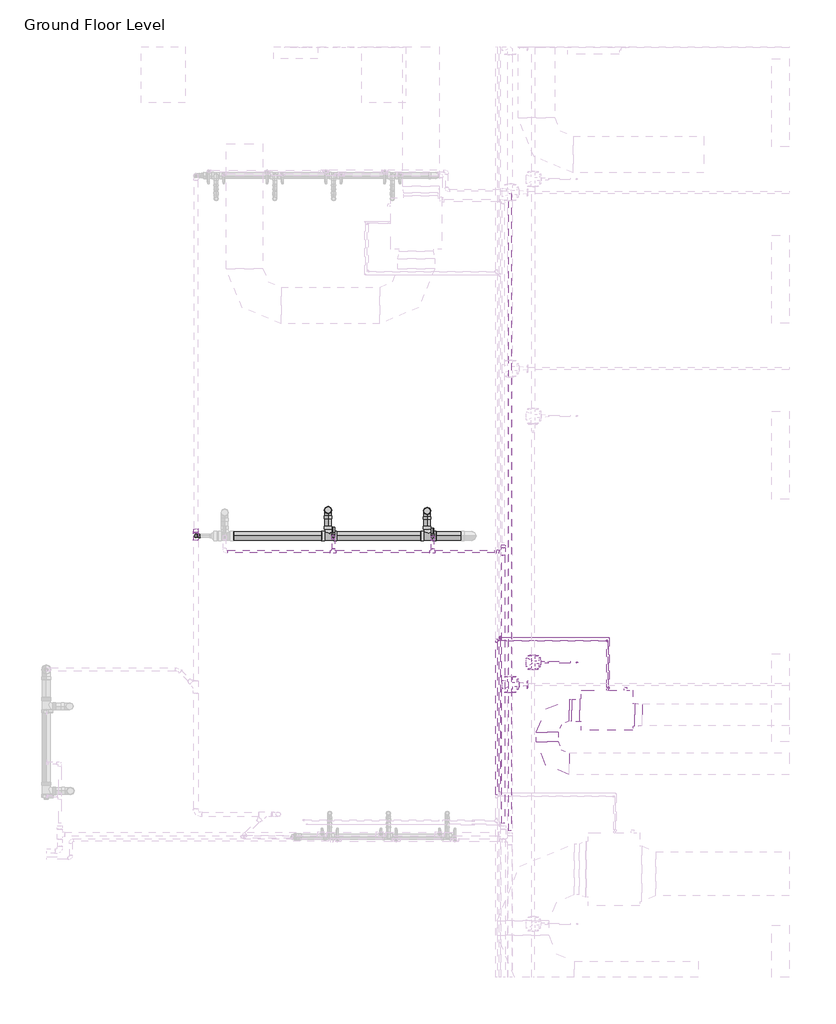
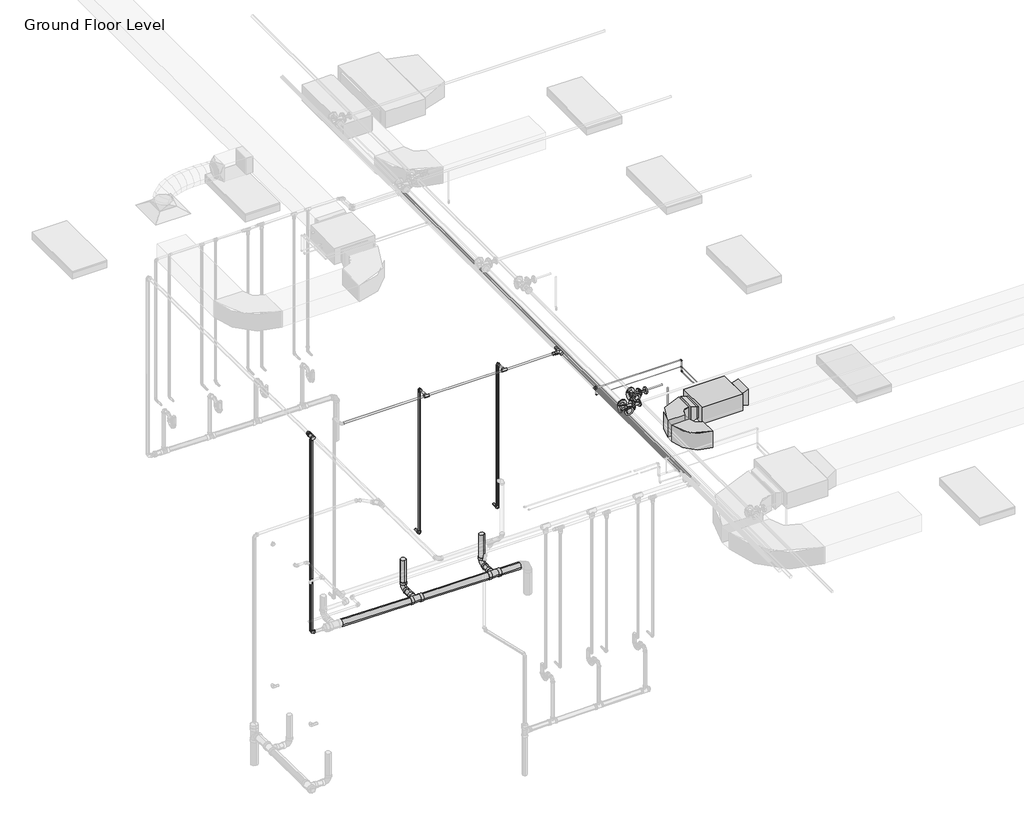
# One storey, part 20 of 74: 30 pipe segments, 28 pipe fittings, 4 duct fittings, 2 duct segments, 1 fire suppression terminal, 1 proxy.
"""IFC4 building model written with IfcOpenShell, lengths in millimetres."""

from ifc_helpers import new_model, si_unit, point, frame, frame_2d, origin, place, context, project, spatial, polyline, circle_curve, trimmed, segment, composite_curve, outline, extrude, transform, mapped, element, save
from components import fcu_daikin_iu_27d020f6, m_rectangular_elbow_radius_1_w_618da153, m_rectangular_transition_angle_45_degree_bfac0661, m_rectangular_transition_angle_45_degree_d4666cfa, m_sprinkler_pendent_15_mm_pendent_06fcbd8e, m_bend_pvc_sch_40_dwv_standard_a4b99d37, m_bend_pvc_sch_40_dwv_standard_877aed9a, m_elbow_generic_standard_a088f956, m_elbow_generic_standard_2a704253, m_reducer_flanged_cs_class_150_standard_d42b2106, m_reducer_flanged_cs_class_150_standard_a7631c35, m_reducer_pvc_sch_40_dwv_standard_230e9924, m_tee_generic_standard_5b2ed4d4, m_tee_generic_standard_5078887e, m_tee_reducing_sanitary_pvc_sch_40_dwv_standard_b49161a9, m_tee_reducing_sanitary_pvc_sch_40_dwv_standard_ca98856a, m_tee_round_base_flanged_cs_class_150_standard_dd767e04, m_tee_round_base_flanged_cs_class_150_standard_7e5987a1, m_transition_generic_standard_44e35838, m_transition_generic_standard_2d362458, standard_517a5a8d, standard_72b35c3b, standard_08ff6011, standard_d0d0b892

model = new_model("IFC4")

# Units and contexts
model_context = context("Model", 3, world=origin())
ifc_project = project(units=[si_unit("LENGTHUNIT", "METRE", prefix="MILLI")], contexts=[model_context])

# Site, building, storey
site = spatial("IfcSite", under=ifc_project)
building = spatial("IfcBuilding", under=site)
storey = spatial("IfcBuildingStorey", under=building, Name="Ground Floor Level", Elevation=900.0)

# Proxy
placement = place(None, origin())
fcu_daikin_iu_shape = fcu_daikin_iu_27d020f6(model_context)
element("IfcBuildingElementProxy", 1, Name="FCU-DAIKIN IU : 2.3kW, 230V/50Hz/1Ph", ObjectType="FCU-DAIKIN IU : 2.3kW, 230V/50Hz/1Ph", at=placement, inside=storey, context=model_context, shape_type="MappedRepresentation", body=[
    mapped(fcu_daikin_iu_shape, transform((7003.8644074, -31136.6877703, 4080.0), x_axis=(0.0, 1.0, 0.0), y_axis=(-1.0, 0.0, 0.0), z_axis=(0.0, 0.0, 1.0))),
])

# Duct fittings
m_rectangular_elbow_radius_1_w_shape = m_rectangular_elbow_radius_1_w_618da153(model_context)
element("IfcDuctFitting", 2, ObjectType="M_Rectangular Elbow - Radius : 1 W", at=placement, inside=storey, context=model_context, shape_type="MappedRepresentation", body=[
    mapped(m_rectangular_elbow_radius_1_w_shape, transform((6188.4644074, -31136.6877703, 4221.2), x_axis=(-1.0, 0.0, 0.0), y_axis=(0.0, -1.0, 0.0), z_axis=(0.0, 0.0, 1.0))),
])
element("IfcDuctFitting", 3, ObjectType="M_Rectangular Elbow - Radius : 1 W", at=placement, inside=storey, context=model_context, shape_type="MappedRepresentation", body=[
    mapped(m_rectangular_elbow_radius_1_w_shape, transform((6188.4644074, -31864.7846466, 4221.2), x_axis=(0.0, -1.0, 0.0), y_axis=(1.0, 0.0, 0.0), z_axis=(0.0, 0.0, 1.0))),
])
m_rectangular_transition_angle_45_degree_shape = m_rectangular_transition_angle_45_degree_bfac0661(model_context)
element("IfcDuctFitting", 4, ObjectType="M_Rectangular Transition - Angle : 45 Degree", at=placement, inside=storey, context=model_context, shape_type="MappedRepresentation", body=[
    mapped(m_rectangular_transition_angle_45_degree_shape, transform((6628.4644074, -31136.6877703, 4221.2), x_axis=(-1.0, 0.0, 0.0), y_axis=(0.0, -1.0, 0.0), z_axis=(0.0, 0.0, 1.0))),
])
m_rectangular_transition_angle_45_degree_2_shape = m_rectangular_transition_angle_45_degree_d4666cfa(model_context)
element("IfcDuctFitting", 5, ObjectType="M_Rectangular Transition - Angle : 45 Degree", at=placement, inside=storey, context=model_context, shape_type="MappedRepresentation", body=[
    mapped(m_rectangular_transition_angle_45_degree_2_shape, transform((7379.2644074, -31200.1877703, 4245.9125), x_axis=(1.0, 0.0, 0.0), y_axis=(0.0, 1.0, 0.0), z_axis=(0.0, 0.0, 1.0))),
])

# Duct segments
element("IfcDuctSegment", 6, ObjectType="Radius Elbows / Taps", at=placement, inside=storey, context=model_context, shape_type="SweptSolid", body=[
    extrude(outline(polyline([(6525.0153563, -30986.6877703), (6525.0153563, -31286.6877703), (6488.4644074, -31286.6877703), (6488.4644074, -30986.6877703), (6525.0153563, -30986.6877703)])), frame((0.0, 0.0, 4071.2), z_axis=(0.0, 0.0, 1.0), x_axis=(1.0, 0.0, 0.0)), (0.0, 0.0, 1.0), 300.0),
])
element("IfcDuctSegment", 7, ObjectType="Radius Elbows / Taps", at=placement, inside=storey, context=model_context, shape_type="SweptSolid", body=[
    extrude(outline(polyline([(6038.4644074, -31436.6877703), (6338.4644074, -31436.6877703), (6338.4644074, -31564.7846466), (6038.4644074, -31564.7846466), (6038.4644074, -31436.6877703)])), frame((0.0, 0.0, 4071.2), z_axis=(0.0, 0.0, 1.0), x_axis=(1.0, 0.0, 0.0)), (0.0, 0.0, 1.0), 300.0),
])

# Fire suppression terminal
m_sprinkler_pendent_15_mm_pendent_shape = m_sprinkler_pendent_15_mm_pendent_06fcbd8e(model_context)
element("IfcFireSuppressionTerminal", 8, ObjectType="M_Sprinkler - Pendent : 15 mm Pendent", at=placement, inside=storey, context=model_context, shape_type="MappedRepresentation", body=[
    mapped(m_sprinkler_pendent_15_mm_pendent_shape, transform((6592.5481019, -30483.0742399, 3650.0), x_axis=(1.0, 0.0, 0.0), y_axis=(0.0, 1.0, 0.0), z_axis=(0.0, 0.0, 1.0))),
])

# Pipe fittings
m_bend_pvc_sch_40_dwv_standard_shape = m_bend_pvc_sch_40_dwv_standard_a4b99d37(model_context)
element("IfcPipeFitting", 9, ObjectType="M_Bend - PVC - Sch 40 - DWV : Standard", at=placement, inside=storey, context=model_context, shape_type="MappedRepresentation", body=[
    mapped(m_bend_pvc_sch_40_dwv_standard_shape, transform((3203.6056556, -28411.2419494, 467.9903626), x_axis=(0.0, 0.0, -1.0), y_axis=(0.0, -1.0, 0.0), z_axis=(-1.0, 0.0, 0.0))),
])
element("IfcPipeFitting", 10, ObjectType="M_Bend - PVC - Sch 40 - DWV : Standard", at=placement, inside=storey, context=model_context, shape_type="MappedRepresentation", body=[
    mapped(m_bend_pvc_sch_40_dwv_standard_shape, transform((4553.7150181, -28421.2419494, 454.489269), x_axis=(0.0, 0.0, -1.0), y_axis=(0.0, -1.0, 0.0), z_axis=(-1.0, 0.0, 0.0))),
])
m_bend_pvc_sch_40_dwv_standard_2_shape = m_bend_pvc_sch_40_dwv_standard_877aed9a(model_context)
element("IfcPipeFitting", 11, ObjectType="M_Bend - PVC - Sch 40 - DWV : Standard", at=placement, inside=storey, context=model_context, shape_type="MappedRepresentation", body=[
    mapped(m_bend_pvc_sch_40_dwv_standard_2_shape, transform((1404.8669708, -28761.5689421, 485.9777495), x_axis=(-0.9999500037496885, 0.0, 0.009999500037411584), y_axis=(0.009999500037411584, 0.0, 0.9999500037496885), z_axis=(0.0, 1.0, 0.0))),
])
m_elbow_generic_standard_shape = m_elbow_generic_standard_a088f956(model_context)
element("IfcPipeFitting", 12, ObjectType="M_Elbow - Generic : Standard", at=placement, inside=storey, context=model_context, shape_type="MappedRepresentation", body=[
    mapped(m_elbow_generic_standard_shape, transform((7003.8644074, -30187.4513653, 4390.0), x_axis=(1.0, 0.0, 0.0), y_axis=(0.0, 0.0, -1.0), z_axis=(0.0, 1.0, 0.0))),
])
element("IfcPipeFitting", 13, ObjectType="M_Elbow - Generic : Standard", at=placement, inside=storey, context=model_context, shape_type="MappedRepresentation", body=[
    mapped(m_elbow_generic_standard_shape, transform((7003.8644074, -30187.4513653, 4180.0), x_axis=(0.0, 0.0, -1.0), y_axis=(0.0, -1.0, 0.0), z_axis=(-1.0, 0.0, 0.0))),
])
m_elbow_generic_standard_2_shape = m_elbow_generic_standard_2a704253(model_context)
element("IfcPipeFitting", 14, ObjectType="M_Elbow - Generic : Standard", at=placement, inside=storey, context=model_context, shape_type="MappedRepresentation", body=[
    mapped(m_elbow_generic_standard_2_shape, transform((7028.8644074, -30144.9316538, 4230.8), x_axis=(0.0, 1.0, 0.0), y_axis=(-1.0, 0.0, 0.0), z_axis=(0.0, 0.0, 1.0))),
])
element("IfcPipeFitting", 15, ObjectType="M_Elbow - Generic : Standard", at=placement, inside=storey, context=model_context, shape_type="MappedRepresentation", body=[
    mapped(m_elbow_generic_standard_2_shape, transform((5543.9904113, -30144.9316538, 4230.8), x_axis=(0.0, 0.0, -1.0), y_axis=(1.0, 0.0, 0.0), z_axis=(0.0, -1.0, 0.0))),
])
m_reducer_flanged_cs_class_150_standard_shape = m_reducer_flanged_cs_class_150_standard_d42b2106(model_context)
element("IfcPipeFitting", 16, ObjectType="M_Reducer - Flanged - CS - Class 150 : Standard", at=placement, inside=storey, context=model_context, shape_type="MappedRepresentation", body=[
    mapped(m_reducer_flanged_cs_class_150_standard_shape, transform((6097.7664057, -30483.0742399, 4290.0), x_axis=(1.0, 0.0, 0.0), y_axis=(0.0, 0.0, -1.0), z_axis=(0.0, 1.0, 0.0))),
])
m_reducer_flanged_cs_class_150_standard_2_shape = m_reducer_flanged_cs_class_150_standard_a7631c35(model_context)
element("IfcPipeFitting", 17, ObjectType="M_Reducer - Flanged - CS - Class 150 : Standard", at=placement, inside=storey, context=model_context, shape_type="MappedRepresentation", body=[
    mapped(m_reducer_flanged_cs_class_150_standard_2_shape, transform((5798.6174894, -30785.1783804, 4347.5), x_axis=(1.0, 0.0, 0.0), y_axis=(0.0, 0.0, 1.0), z_axis=(0.0, -1.0, 0.0))),
])
m_reducer_pvc_sch_40_dwv_standard_shape = m_reducer_pvc_sch_40_dwv_standard_230e9924(model_context)
element("IfcPipeFitting", 18, ObjectType="M_Reducer - PVC - Sch 40 - DWV : Standard", at=placement, inside=storey, context=model_context, shape_type="MappedRepresentation", body=[
    mapped(m_reducer_pvc_sch_40_dwv_standard_shape, transform((1404.8829692, -28664.0719039, 4086.0016836), x_axis=(0.0, -0.9999500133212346, 0.00999854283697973), y_axis=(1.0, 0.0, 0.0), z_axis=(0.0, 0.00999854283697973, 0.9999500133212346))),
])
m_tee_generic_standard_shape = m_tee_generic_standard_5b2ed4d4(model_context)
element("IfcPipeFitting", 19, ObjectType="M_Tee - Generic : Standard", at=placement, inside=storey, context=model_context, shape_type="MappedRepresentation", body=[
    mapped(m_tee_generic_standard_shape, transform((5543.9904113, -30144.9316538, 4377.5), x_axis=(0.0, -1.0, 0.0), y_axis=(0.0, 0.0, 1.0), z_axis=(-1.0, 0.0, 0.0))),
])
m_tee_generic_standard_2_shape = m_tee_generic_standard_5078887e(model_context)
element("IfcPipeFitting", 20, ObjectType="M_Tee - Generic : Standard", at=placement, inside=storey, context=model_context, shape_type="MappedRepresentation", body=[
    mapped(m_tee_generic_standard_2_shape, transform((5497.8951827, -30187.4513653, 4390.0), x_axis=(0.0, -1.0, 0.0), y_axis=(-1.0, 0.0, 0.0), z_axis=(0.0, 0.0, -1.0))),
])
m_tee_reducing_sanitary_pvc_sch_40_dwv_standard_shape = m_tee_reducing_sanitary_pvc_sch_40_dwv_standard_b49161a9(model_context)
element("IfcPipeFitting", 21, ObjectType="M_Tee Reducing Sanitary - PVC - Sch 40 - DWV : Standard", at=placement, inside=storey, context=model_context, shape_type="MappedRepresentation", body=[
    mapped(m_tee_reducing_sanitary_pvc_sch_40_dwv_standard_shape, transform((3203.6056556, -28761.5689421, 467.9903626), x_axis=(-0.9999500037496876, 0.0, 0.00999950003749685), y_axis=(0.0, -1.0, 0.0), z_axis=(0.00999950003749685, 0.0, 0.9999500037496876))),
])
element("IfcPipeFitting", 22, ObjectType="M_Tee Reducing Sanitary - PVC - Sch 40 - DWV : Standard", at=placement, inside=storey, context=model_context, shape_type="MappedRepresentation", body=[
    mapped(m_tee_reducing_sanitary_pvc_sch_40_dwv_standard_shape, transform((4553.7150181, -28761.5689421, 454.489269), x_axis=(-0.9999500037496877, 0.0, 0.009999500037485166), y_axis=(0.0, -1.0, 0.0), z_axis=(0.009999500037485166, 0.0, 0.9999500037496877))),
])
m_tee_reducing_sanitary_pvc_sch_40_dwv_standard_2_shape = m_tee_reducing_sanitary_pvc_sch_40_dwv_standard_ca98856a(model_context)
element("IfcPipeFitting", 23, ObjectType="M_Tee Reducing Sanitary - PVC - Sch 40 - DWV : Standard", at=placement, inside=storey, context=model_context, shape_type="MappedRepresentation", body=[
    mapped(m_tee_reducing_sanitary_pvc_sch_40_dwv_standard_2_shape, transform((1404.8829692, -28761.5849374, 4087.2766918), x_axis=(0.0, 0.9999500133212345, -0.009998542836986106), y_axis=(0.0, 0.009998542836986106, 0.9999500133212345), z_axis=(1.0, 0.0, 0.0))),
])
m_tee_round_base_flanged_cs_class_150_standard_shape = m_tee_round_base_flanged_cs_class_150_standard_dd767e04(model_context)
element("IfcPipeFitting", 24, ObjectType="M_Tee Round Base - Flanged - CS - Class 150 : Standard", at=placement, inside=storey, context=model_context, shape_type="MappedRepresentation", body=[
    mapped(m_tee_round_base_flanged_cs_class_150_standard_shape, transform((5684.6174894, -30785.1783804, 4347.5), x_axis=(0.0, -1.0, 0.0), y_axis=(-1.0, 0.0, 0.0), z_axis=(0.0, 0.0, -1.0))),
])
m_tee_round_base_flanged_cs_class_150_standard_2_shape = m_tee_round_base_flanged_cs_class_150_standard_7e5987a1(model_context)
element("IfcPipeFitting", 25, ObjectType="M_Tee Round Base - Flanged - CS - Class 150 : Standard", at=placement, inside=storey, context=model_context, shape_type="MappedRepresentation", body=[
    mapped(m_tee_round_base_flanged_cs_class_150_standard_2_shape, transform((5997.057812, -30483.0742399, 4290.0), x_axis=(0.0, 1.0, 0.0), y_axis=(-1.0, 0.0, 0.0), z_axis=(0.0, 0.0, 1.0))),
])
m_transition_generic_standard_shape = m_transition_generic_standard_44e35838(model_context)
element("IfcPipeFitting", 26, ObjectType="M_Transition - Generic : Standard", at=placement, inside=storey, context=model_context, shape_type="MappedRepresentation", body=[
    mapped(m_transition_generic_standard_shape, transform((5521.7076827, -30187.4513653, 4390.0), x_axis=(1.0, 0.0, 0.0), y_axis=(0.0, 1.0, 0.0), z_axis=(0.0, 0.0, 1.0))),
])
m_transition_generic_standard_2_shape = m_transition_generic_standard_2d362458(model_context)
element("IfcPipeFitting", 27, ObjectType="M_Transition - Generic : Standard", at=placement, inside=storey, context=model_context, shape_type="MappedRepresentation", body=[
    mapped(m_transition_generic_standard_2_shape, transform((5543.9904113, -30144.9316538, 4356.8625), x_axis=(0.0, 0.0, -1.0), y_axis=(1.0, 0.0, 0.0), z_axis=(0.0, -1.0, 0.0))),
])
standard_shape = standard_517a5a8d(model_context)
element("IfcPipeFitting", 28, ObjectType="M_Elbow - CPVC - Sch 40 : Standard", at=placement, inside=storey, context=model_context, shape_type="MappedRepresentation", body=[
    mapped(standard_shape, transform((4627.1152882, -28774.7846466, 1655.0), x_axis=(0.0, -1.0, 0.0), y_axis=(0.0, 0.0, 1.0), z_axis=(-1.0, 0.0, 0.0))),
])
element("IfcPipeFitting", 29, ObjectType="M_Elbow - CPVC - Sch 40 : Standard", at=placement, inside=storey, context=model_context, shape_type="MappedRepresentation", body=[
    mapped(standard_shape, transform((4627.1152882, -28774.7846466, 4300.0), x_axis=(0.0, 0.0, 1.0), y_axis=(0.0, -1.0, 0.0), z_axis=(1.0, 0.0, 0.0))),
])
element("IfcPipeFitting", 30, ObjectType="M_Elbow - CPVC - Sch 40 : Standard", at=placement, inside=storey, context=model_context, shape_type="MappedRepresentation", body=[
    mapped(standard_shape, transform((3277.0059257, -28764.7846466, 1655.0), x_axis=(0.0, -1.0, 0.0), y_axis=(0.0, 0.0, 1.0), z_axis=(-1.0, 0.0, 0.0))),
])
element("IfcPipeFitting", 31, ObjectType="M_Elbow - CPVC - Sch 40 : Standard", at=placement, inside=storey, context=model_context, shape_type="MappedRepresentation", body=[
    mapped(standard_shape, transform((3277.0059257, -28764.7846466, 4300.0), x_axis=(0.0, 0.0, 1.0), y_axis=(0.0, -1.0, 0.0), z_axis=(1.0, 0.0, 0.0))),
])
standard_2_shape = standard_72b35c3b(model_context)
element("IfcPipeFitting", 32, ObjectType="M_Tee - CPVC - Sch 40 : Standard", at=placement, inside=storey, context=model_context, shape_type="MappedRepresentation", body=[
    mapped(standard_2_shape, transform((4627.1152882, -28974.7846466, 4300.0), x_axis=(-1.0, 0.0, 0.0), y_axis=(0.0, -1.0, 0.0), z_axis=(0.0, 0.0, 1.0))),
])
element("IfcPipeFitting", 33, ObjectType="M_Tee - CPVC - Sch 40 : Standard", at=placement, inside=storey, context=model_context, shape_type="MappedRepresentation", body=[
    mapped(standard_2_shape, transform((3277.0059257, -28974.7846466, 4300.0), x_axis=(1.0, 0.0, 0.0), y_axis=(0.0, -1.0, 0.0), z_axis=(0.0, 0.0, -1.0))),
])
standard_3_shape = standard_08ff6011(model_context)
element("IfcPipeFitting", 34, ObjectType="M_Tee - CPVC - Sch 40 : Standard", at=placement, inside=storey, context=model_context, shape_type="MappedRepresentation", body=[
    mapped(standard_3_shape, transform((5589.646628, -28974.7846466, 4300.0), x_axis=(0.0, 1.0, 0.0), y_axis=(1.0, 0.0, 0.0), z_axis=(0.0, 0.0, -1.0))),
])
standard_4_shape = standard_d0d0b892(model_context)
element("IfcPipeFitting", 35, ObjectType="M_Coupling Reducing - CPVC - Sch 40 : Standard", at=placement, inside=storey, context=model_context, shape_type="MappedRepresentation", body=[
    mapped(standard_4_shape, transform((5589.646628, -28920.8096466, 4300.0), x_axis=(0.0, 1.0, 0.0), y_axis=(-1.0, 0.0, 0.0), z_axis=(0.0, 0.0, 1.0))),
])
element("IfcPipeFitting", 36, ObjectType="M_Coupling Reducing - CPVC - Sch 40 : Standard", at=placement, inside=storey, context=model_context, shape_type="MappedRepresentation", body=[
    mapped(standard_4_shape, transform((5535.671628, -28974.7846466, 4300.0), x_axis=(-1.0, 0.0, 0.0), y_axis=(0.0, -1.0, 0.0), z_axis=(0.0, 0.0, 1.0))),
])

# Pipe segments
element("IfcPipeSegment", 37, ObjectType="CPVC", at=placement, inside=storey, context=model_context, shape_type="SweptSolid", body=[
    extrude(outline(composite_curve([segment(trimmed(circle_curve(frame_2d((1655.0, 4627.1152882)), 16.7005), [point((1655.0, 4610.4147882))], [point((1638.2995, 4627.1152882))], False, "CARTESIAN"), True, "CONTINUOUS"), segment(trimmed(circle_curve(frame_2d((1655.0, 4627.1152882)), 16.7005), [point((1638.2995, 4627.1152882))], [point((1655.0, 4643.8157882))], False, "CARTESIAN"), True, "CONTINUOUS"), segment(trimmed(circle_curve(frame_2d((1655.0, 4627.1152882)), 16.7005), [point((1655.0, 4643.8157882))], [point((1671.7005, 4627.1152882))], False, "CARTESIAN"), True, "CONTINUOUS"), segment(trimmed(circle_curve(frame_2d((1655.0, 4627.1152882)), 16.7005), [point((1671.7005, 4627.1152882))], [point((1655.0, 4610.4147882))], False, "CARTESIAN"), True, "CONTINUOUS")], self_intersect=False)), frame((0.0, -28731.5220966, 0.0), z_axis=(0.0, 1.0, 0.0), x_axis=(0.0, 0.0, 1.0)), (0.0, 0.0, 1.0), 76.73745),
])
element("IfcPipeSegment", 38, ObjectType="CPVC", at=placement, inside=storey, context=model_context, shape_type="SweptSolid", body=[
    extrude(outline(composite_curve([segment(trimmed(circle_curve(frame_2d((4300.0, 4627.1152882)), 16.7005), [point((4300.0, 4610.4147882))], [point((4283.2995, 4627.1152882))], False, "CARTESIAN"), True, "CONTINUOUS"), segment(trimmed(circle_curve(frame_2d((4300.0, 4627.1152882)), 16.7005), [point((4283.2995, 4627.1152882))], [point((4300.0, 4643.8157882))], False, "CARTESIAN"), True, "CONTINUOUS"), segment(trimmed(circle_curve(frame_2d((4300.0, 4627.1152882)), 16.7005), [point((4300.0, 4643.8157882))], [point((4316.7005, 4627.1152882))], False, "CARTESIAN"), True, "CONTINUOUS"), segment(trimmed(circle_curve(frame_2d((4300.0, 4627.1152882)), 16.7005), [point((4316.7005, 4627.1152882))], [point((4300.0, 4610.4147882))], False, "CARTESIAN"), True, "CONTINUOUS")], self_intersect=False)), frame((0.0, -28935.0844466, 0.0), z_axis=(0.0, 1.0, 0.0), x_axis=(0.0, 0.0, 1.0)), (0.0, 0.0, 1.0), 117.03725),
])
element("IfcPipeSegment", 39, ObjectType="CPVC", at=placement, inside=storey, context=model_context, shape_type="SweptSolid", body=[
    extrude(outline(composite_curve([segment(trimmed(circle_curve(frame_2d((4627.1152882, -28774.7846466)), 16.7005), [point((4610.4147882, -28774.7846466))], [point((4627.1152882, -28758.0841466))], False, "CARTESIAN"), True, "CONTINUOUS"), segment(trimmed(circle_curve(frame_2d((4627.1152882, -28774.7846466)), 16.7005), [point((4627.1152882, -28758.0841466))], [point((4643.8157882, -28774.7846466))], False, "CARTESIAN"), True, "CONTINUOUS"), segment(trimmed(circle_curve(frame_2d((4627.1152882, -28774.7846466)), 16.7005), [point((4643.8157882, -28774.7846466))], [point((4627.1152882, -28791.4851466))], False, "CARTESIAN"), True, "CONTINUOUS"), segment(trimmed(circle_curve(frame_2d((4627.1152882, -28774.7846466)), 16.7005), [point((4627.1152882, -28791.4851466))], [point((4610.4147882, -28774.7846466))], False, "CARTESIAN"), True, "CONTINUOUS")], self_intersect=False)), frame((0.0, 0.0, 1698.26255), z_axis=(0.0, 0.0, 1.0), x_axis=(1.0, 0.0, 0.0)), (0.0, 0.0, 1.0), 2558.4749),
])
element("IfcPipeSegment", 40, ObjectType="CPVC", at=placement, inside=storey, context=model_context, shape_type="SweptSolid", body=[
    extrude(outline(composite_curve([segment(trimmed(circle_curve(frame_2d((-28974.7846466, 4300.0)), 16.7005), [point((-28958.0841466, 4300.0))], [point((-28974.7846466, 4283.2995))], False, "CARTESIAN"), True, "CONTINUOUS"), segment(trimmed(circle_curve(frame_2d((-28974.7846466, 4300.0)), 16.7005), [point((-28974.7846466, 4283.2995))], [point((-28991.4851466, 4300.0))], False, "CARTESIAN"), True, "CONTINUOUS"), segment(trimmed(circle_curve(frame_2d((-28974.7846466, 4300.0)), 16.7005), [point((-28991.4851466, 4300.0))], [point((-28974.7846466, 4316.7005))], False, "CARTESIAN"), True, "CONTINUOUS"), segment(trimmed(circle_curve(frame_2d((-28974.7846466, 4300.0)), 16.7005), [point((-28974.7846466, 4316.7005))], [point((-28958.0841466, 4300.0))], False, "CARTESIAN"), True, "CONTINUOUS")], self_intersect=False)), frame((4666.8154882, 0.0, 0.0), z_axis=(1.0, 0.0, 0.0), x_axis=(0.0, 1.0, 0.0)), (0.0, 0.0, 1.0), 802.7372648),
])
element("IfcPipeSegment", 41, ObjectType="CPVC", at=placement, inside=storey, context=model_context, shape_type="SweptSolid", body=[
    extrude(outline(composite_curve([segment(trimmed(circle_curve(frame_2d((-28974.7846466, 4300.0)), 16.7005), [point((-28958.0841466, 4300.0))], [point((-28974.7846466, 4283.2995))], False, "CARTESIAN"), True, "CONTINUOUS"), segment(trimmed(circle_curve(frame_2d((-28974.7846466, 4300.0)), 16.7005), [point((-28974.7846466, 4283.2995))], [point((-28991.4851466, 4300.0))], False, "CARTESIAN"), True, "CONTINUOUS"), segment(trimmed(circle_curve(frame_2d((-28974.7846466, 4300.0)), 16.7005), [point((-28991.4851466, 4300.0))], [point((-28974.7846466, 4316.7005))], False, "CARTESIAN"), True, "CONTINUOUS"), segment(trimmed(circle_curve(frame_2d((-28974.7846466, 4300.0)), 16.7005), [point((-28974.7846466, 4316.7005))], [point((-28958.0841466, 4300.0))], False, "CARTESIAN"), True, "CONTINUOUS")], self_intersect=False)), frame((1840.0213414, 0.0, 0.0), z_axis=(1.0, 0.0, 0.0), x_axis=(0.0, 1.0, 0.0)), (0.0, 0.0, 1.0), 1397.2843843),
])
element("IfcPipeSegment", 42, ObjectType="CPVC", at=placement, inside=storey, context=model_context, shape_type="SweptSolid", body=[
    extrude(outline(composite_curve([segment(trimmed(circle_curve(frame_2d((1655.0, 3277.0059257)), 16.7005), [point((1655.0, 3260.3054257))], [point((1638.2995, 3277.0059257))], False, "CARTESIAN"), True, "CONTINUOUS"), segment(trimmed(circle_curve(frame_2d((1655.0, 3277.0059257)), 16.7005), [point((1638.2995, 3277.0059257))], [point((1655.0, 3293.7064257))], False, "CARTESIAN"), True, "CONTINUOUS"), segment(trimmed(circle_curve(frame_2d((1655.0, 3277.0059257)), 16.7005), [point((1655.0, 3293.7064257))], [point((1671.7005, 3277.0059257))], False, "CARTESIAN"), True, "CONTINUOUS"), segment(trimmed(circle_curve(frame_2d((1655.0, 3277.0059257)), 16.7005), [point((1671.7005, 3277.0059257))], [point((1655.0, 3260.3054257))], False, "CARTESIAN"), True, "CONTINUOUS")], self_intersect=False)), frame((0.0, -28721.5220966, 0.0), z_axis=(0.0, 1.0, 0.0), x_axis=(0.0, 0.0, 1.0)), (0.0, 0.0, 1.0), 76.73745),
])
element("IfcPipeSegment", 43, ObjectType="CPVC", at=placement, inside=storey, context=model_context, shape_type="SweptSolid", body=[
    extrude(outline(composite_curve([segment(trimmed(circle_curve(frame_2d((4300.0, 3277.0059257)), 16.7005), [point((4300.0, 3293.7064257))], [point((4316.7005, 3277.0059257))], False, "CARTESIAN"), True, "CONTINUOUS"), segment(trimmed(circle_curve(frame_2d((4300.0, 3277.0059257)), 16.7005), [point((4316.7005, 3277.0059257))], [point((4300.0, 3260.3054257))], False, "CARTESIAN"), True, "CONTINUOUS"), segment(trimmed(circle_curve(frame_2d((4300.0, 3277.0059257)), 16.7005), [point((4300.0, 3260.3054257))], [point((4283.2995, 3277.0059257))], False, "CARTESIAN"), True, "CONTINUOUS"), segment(trimmed(circle_curve(frame_2d((4300.0, 3277.0059257)), 16.7005), [point((4283.2995, 3277.0059257))], [point((4300.0, 3293.7064257))], False, "CARTESIAN"), True, "CONTINUOUS")], self_intersect=False)), frame((0.0, -28935.0844466, 0.0), z_axis=(0.0, 1.0, 0.0), x_axis=(0.0, 0.0, 1.0)), (0.0, 0.0, 1.0), 127.03725),
])
element("IfcPipeSegment", 44, ObjectType="CPVC", at=placement, inside=storey, context=model_context, shape_type="SweptSolid", body=[
    extrude(outline(composite_curve([segment(trimmed(circle_curve(frame_2d((3277.0059257, -28764.7846466)), 16.7005), [point((3260.3054257, -28764.7846466))], [point((3277.0059257, -28748.0841466))], False, "CARTESIAN"), True, "CONTINUOUS"), segment(trimmed(circle_curve(frame_2d((3277.0059257, -28764.7846466)), 16.7005), [point((3277.0059257, -28748.0841466))], [point((3293.7064257, -28764.7846466))], False, "CARTESIAN"), True, "CONTINUOUS"), segment(trimmed(circle_curve(frame_2d((3277.0059257, -28764.7846466)), 16.7005), [point((3293.7064257, -28764.7846466))], [point((3277.0059257, -28781.4851466))], False, "CARTESIAN"), True, "CONTINUOUS"), segment(trimmed(circle_curve(frame_2d((3277.0059257, -28764.7846466)), 16.7005), [point((3277.0059257, -28781.4851466))], [point((3260.3054257, -28764.7846466))], False, "CARTESIAN"), True, "CONTINUOUS")], self_intersect=False)), frame((0.0, 0.0, 1698.26255), z_axis=(0.0, 0.0, 1.0), x_axis=(1.0, 0.0, 0.0)), (0.0, 0.0, 1.0), 2558.4749),
])
element("IfcPipeSegment", 45, ObjectType="CPVC", at=placement, inside=storey, context=model_context, shape_type="SweptSolid", body=[
    extrude(outline(composite_curve([segment(trimmed(circle_curve(frame_2d((-28974.7846466, 4300.0)), 16.7005), [point((-28958.0841466, 4300.0))], [point((-28974.7846466, 4283.2995))], False, "CARTESIAN"), True, "CONTINUOUS"), segment(trimmed(circle_curve(frame_2d((-28974.7846466, 4300.0)), 16.7005), [point((-28974.7846466, 4283.2995))], [point((-28991.4851466, 4300.0))], False, "CARTESIAN"), True, "CONTINUOUS"), segment(trimmed(circle_curve(frame_2d((-28974.7846466, 4300.0)), 16.7005), [point((-28991.4851466, 4300.0))], [point((-28974.7846466, 4316.7005))], False, "CARTESIAN"), True, "CONTINUOUS"), segment(trimmed(circle_curve(frame_2d((-28974.7846466, 4300.0)), 16.7005), [point((-28974.7846466, 4316.7005))], [point((-28958.0841466, 4300.0))], False, "CARTESIAN"), True, "CONTINUOUS")], self_intersect=False)), frame((3316.7061257, 0.0, 0.0), z_axis=(1.0, 0.0, 0.0), x_axis=(0.0, 1.0, 0.0)), (0.0, 0.0, 1.0), 1270.7089625),
])
element("IfcPipeSegment", 46, ObjectType="CPVC", at=placement, inside=storey, context=model_context, shape_type="SweptSolid", body=[
    extrude(outline(composite_curve([segment(trimmed(circle_curve(frame_2d((4300.0, 5589.646628)), 21.082), [point((4300.0, 5568.564628))], [point((4278.918, 5589.646628))], False, "CARTESIAN"), True, "CONTINUOUS"), segment(trimmed(circle_curve(frame_2d((4300.0, 5589.646628)), 21.082), [point((4278.918, 5589.646628))], [point((4300.0, 5610.728628))], False, "CARTESIAN"), True, "CONTINUOUS"), segment(trimmed(circle_curve(frame_2d((4300.0, 5589.646628)), 21.082), [point((4300.0, 5610.728628))], [point((4321.082, 5589.646628))], False, "CARTESIAN"), True, "CONTINUOUS"), segment(trimmed(circle_curve(frame_2d((4300.0, 5589.646628)), 21.082), [point((4321.082, 5589.646628))], [point((4300.0, 5568.564628))], False, "CARTESIAN"), True, "CONTINUOUS")], self_intersect=False)), frame((0.0, -32672.9715951, 0.0), z_axis=(0.0, 1.0, 0.0), x_axis=(0.0, 0.0, 1.0)), (0.0, 0.0, 1.0), 3644.2119485),
])
element("IfcPipeSegment", 47, ObjectType="CPVC", at=placement, inside=storey, context=model_context, shape_type="SweptSolid", body=[
    extrude(outline(composite_curve([segment(trimmed(circle_curve(frame_2d((4250.0, 5680.5575802)), 16.7005), [point((4250.0, 5697.2580802))], [point((4266.7005, 5680.5575802))], False, "CARTESIAN"), True, "CONTINUOUS"), segment(trimmed(circle_curve(frame_2d((4250.0, 5680.5575802)), 16.7005), [point((4266.7005, 5680.5575802))], [point((4250.0, 5663.8570802))], False, "CARTESIAN"), True, "CONTINUOUS"), segment(trimmed(circle_curve(frame_2d((4250.0, 5680.5575802)), 16.7005), [point((4250.0, 5663.8570802))], [point((4233.2995, 5680.5575802))], False, "CARTESIAN"), True, "CONTINUOUS"), segment(trimmed(circle_curve(frame_2d((4250.0, 5680.5575802)), 16.7005), [point((4233.2995, 5680.5575802))], [point((4250.0, 5697.2580802))], False, "CARTESIAN"), True, "CONTINUOUS")], self_intersect=False)), frame((0.0, -32774.921633, 0.0), z_axis=(0.0, 1.0, 0.0), x_axis=(0.0, 0.0, 1.0)), (0.0, 0.0, 1.0), 8676.73745),
])
element("IfcPipeSegment", 48, ObjectType="Copper", at=placement, inside=storey, context=model_context, shape_type="SweptSolid", body=[
    extrude(outline(composite_curve([segment(trimmed(circle_curve(frame_2d((-30187.4513653, 4390.0)), 6.5), [point((-30193.9513653, 4390.0))], [point((-30187.4513653, 4396.5))], False, "CARTESIAN"), True, "CONTINUOUS"), segment(trimmed(circle_curve(frame_2d((-30187.4513653, 4390.0)), 6.5), [point((-30187.4513653, 4396.5))], [point((-30180.9513653, 4390.0))], False, "CARTESIAN"), True, "CONTINUOUS"), segment(trimmed(circle_curve(frame_2d((-30187.4513653, 4390.0)), 6.5), [point((-30180.9513653, 4390.0))], [point((-30187.4513653, 4383.5))], False, "CARTESIAN"), True, "CONTINUOUS"), segment(trimmed(circle_curve(frame_2d((-30187.4513653, 4390.0)), 6.5), [point((-30187.4513653, 4383.5))], [point((-30193.9513653, 4390.0))], False, "CARTESIAN"), True, "CONTINUOUS")], self_intersect=False)), frame((5527.2639327, 0.0, 0.0), z_axis=(1.0, 0.0, 0.0), x_axis=(0.0, 1.0, 0.0)), (0.0, 0.0, 1.0), 1462.3129748),
])
element("IfcPipeSegment", 49, ObjectType="Copper", at=placement, inside=storey, context=model_context, shape_type="SweptSolid", body=[
    extrude(outline(composite_curve([segment(trimmed(circle_curve(frame_2d((4390.0, 5497.8951827)), 9.75), [point((4390.0, 5507.6451827))], [point((4399.75, 5497.8951827))], False, "CARTESIAN"), True, "CONTINUOUS"), segment(trimmed(circle_curve(frame_2d((4390.0, 5497.8951827)), 9.75), [point((4399.75, 5497.8951827))], [point((4390.0, 5488.1451827))], False, "CARTESIAN"), True, "CONTINUOUS"), segment(trimmed(circle_curve(frame_2d((4390.0, 5497.8951827)), 9.75), [point((4390.0, 5488.1451827))], [point((4380.25, 5497.8951827))], False, "CARTESIAN"), True, "CONTINUOUS"), segment(trimmed(circle_curve(frame_2d((4390.0, 5497.8951827)), 9.75), [point((4380.25, 5497.8951827))], [point((4390.0, 5507.6451827))], False, "CARTESIAN"), True, "CONTINUOUS")], self_intersect=False)), frame((0.0, -32283.6388653, 0.0), z_axis=(0.0, 1.0, 0.0), x_axis=(0.0, 0.0, 1.0)), (0.0, 0.0, 1.0), 2072.375),
])
element("IfcPipeSegment", 50, ObjectType="Copper", at=placement, inside=storey, context=model_context, shape_type="SweptSolid", body=[
    extrude(outline(composite_curve([segment(trimmed(circle_curve(frame_2d((4180.0, 7003.8644074)), 6.5), [point((4180.0, 6997.3644074))], [point((4173.5, 7003.8644074))], False, "CARTESIAN"), True, "CONTINUOUS"), segment(trimmed(circle_curve(frame_2d((4180.0, 7003.8644074)), 6.5), [point((4173.5, 7003.8644074))], [point((4180.0, 7010.3644074))], False, "CARTESIAN"), True, "CONTINUOUS"), segment(trimmed(circle_curve(frame_2d((4180.0, 7003.8644074)), 6.5), [point((4180.0, 7010.3644074))], [point((4186.5, 7003.8644074))], False, "CARTESIAN"), True, "CONTINUOUS"), segment(trimmed(circle_curve(frame_2d((4180.0, 7003.8644074)), 6.5), [point((4186.5, 7003.8644074))], [point((4180.0, 6997.3644074))], False, "CARTESIAN"), True, "CONTINUOUS")], self_intersect=False)), frame((0.0, -30823.5877703, 0.0), z_axis=(0.0, 1.0, 0.0), x_axis=(0.0, 0.0, 1.0)), (0.0, 0.0, 1.0), 621.8489049),
])
element("IfcPipeSegment", 51, ObjectType="Copper", at=placement, inside=storey, context=model_context, shape_type="SweptSolid", body=[
    extrude(outline(composite_curve([segment(trimmed(circle_curve(frame_2d((4230.8, 7028.8644074)), 3.35), [point((4230.8, 7025.5144074))], [point((4227.45, 7028.8644074))], False, "CARTESIAN"), True, "CONTINUOUS"), segment(trimmed(circle_curve(frame_2d((4230.8, 7028.8644074)), 3.35), [point((4227.45, 7028.8644074))], [point((4230.8, 7032.2144074))], False, "CARTESIAN"), True, "CONTINUOUS"), segment(trimmed(circle_curve(frame_2d((4230.8, 7028.8644074)), 3.35), [point((4230.8, 7032.2144074))], [point((4234.15, 7028.8644074))], False, "CARTESIAN"), True, "CONTINUOUS"), segment(trimmed(circle_curve(frame_2d((4230.8, 7028.8644074)), 3.35), [point((4234.15, 7028.8644074))], [point((4230.8, 7025.5144074))], False, "CARTESIAN"), True, "CONTINUOUS")], self_intersect=False)), frame((0.0, -30823.5877703, 0.0), z_axis=(0.0, 1.0, 0.0), x_axis=(0.0, 0.0, 1.0)), (0.0, 0.0, 1.0), 667.5186165),
])
element("IfcPipeSegment", 52, ObjectType="Copper", at=placement, inside=storey, context=model_context, shape_type="SweptSolid", body=[
    extrude(outline(composite_curve([segment(trimmed(circle_curve(frame_2d((7003.8644074, -30187.4513653)), 6.5), [point((7010.3644074, -30187.4513653))], [point((7003.8644074, -30193.9513653))], False, "CARTESIAN"), True, "CONTINUOUS"), segment(trimmed(circle_curve(frame_2d((7003.8644074, -30187.4513653)), 6.5), [point((7003.8644074, -30193.9513653))], [point((6997.3644074, -30187.4513653))], False, "CARTESIAN"), True, "CONTINUOUS"), segment(trimmed(circle_curve(frame_2d((7003.8644074, -30187.4513653)), 6.5), [point((6997.3644074, -30187.4513653))], [point((7003.8644074, -30180.9513653))], False, "CARTESIAN"), True, "CONTINUOUS"), segment(trimmed(circle_curve(frame_2d((7003.8644074, -30187.4513653)), 6.5), [point((7003.8644074, -30180.9513653))], [point((7010.3644074, -30187.4513653))], False, "CARTESIAN"), True, "CONTINUOUS")], self_intersect=False)), frame((0.0, 0.0, 4194.2875), z_axis=(0.0, 0.0, 1.0), x_axis=(1.0, 0.0, 0.0)), (0.0, 0.0, 1.0), 181.425),
])
element("IfcPipeSegment", 53, ObjectType="Copper", at=placement, inside=storey, context=model_context, shape_type="SweptSolid", body=[
    extrude(outline(composite_curve([segment(trimmed(circle_curve(frame_2d((4377.5, 5543.9904113)), 6.5), [point((4377.5, 5550.4904113))], [point((4384.0, 5543.9904113))], False, "CARTESIAN"), True, "CONTINUOUS"), segment(trimmed(circle_curve(frame_2d((4377.5, 5543.9904113)), 6.5), [point((4384.0, 5543.9904113))], [point((4377.5, 5537.4904113))], False, "CARTESIAN"), True, "CONTINUOUS"), segment(trimmed(circle_curve(frame_2d((4377.5, 5543.9904113)), 6.5), [point((4377.5, 5537.4904113))], [point((4371.0, 5543.9904113))], False, "CARTESIAN"), True, "CONTINUOUS"), segment(trimmed(circle_curve(frame_2d((4377.5, 5543.9904113)), 6.5), [point((4371.0, 5543.9904113))], [point((4377.5, 5550.4904113))], False, "CARTESIAN"), True, "CONTINUOUS")], self_intersect=False)), frame((0.0, -32244.2941538, 0.0), z_axis=(0.0, 1.0, 0.0), x_axis=(0.0, 0.0, 1.0)), (0.0, 0.0, 1.0), 2078.725),
])
element("IfcPipeSegment", 54, ObjectType="Copper", at=placement, inside=storey, context=model_context, shape_type="SweptSolid", body=[
    extrude(outline(composite_curve([segment(trimmed(circle_curve(frame_2d((5543.9904113, -30144.9316538)), 3.35), [point((5547.3404113, -30144.9316538))], [point((5543.9904113, -30148.2816538))], False, "CARTESIAN"), True, "CONTINUOUS"), segment(trimmed(circle_curve(frame_2d((5543.9904113, -30144.9316538)), 3.35), [point((5543.9904113, -30148.2816538))], [point((5540.6404113, -30144.9316538))], False, "CARTESIAN"), True, "CONTINUOUS"), segment(trimmed(circle_curve(frame_2d((5543.9904113, -30144.9316538)), 3.35), [point((5540.6404113, -30144.9316538))], [point((5543.9904113, -30141.5816538))], False, "CARTESIAN"), True, "CONTINUOUS"), segment(trimmed(circle_curve(frame_2d((5543.9904113, -30144.9316538)), 3.35), [point((5543.9904113, -30141.5816538))], [point((5547.3404113, -30144.9316538))], False, "CARTESIAN"), True, "CONTINUOUS")], self_intersect=False)), frame((0.0, 0.0, 4241.9375), z_axis=(0.0, 0.0, 1.0), x_axis=(1.0, 0.0, 0.0)), (0.0, 0.0, 1.0), 110.95625),
])
element("IfcPipeSegment", 55, ObjectType="Copper", at=placement, inside=storey, context=model_context, shape_type="SweptSolid", body=[
    extrude(outline(composite_curve([segment(trimmed(circle_curve(frame_2d((-30144.9316538, 4230.8)), 3.35), [point((-30148.2816538, 4230.8))], [point((-30144.9316538, 4234.15))], False, "CARTESIAN"), True, "CONTINUOUS"), segment(trimmed(circle_curve(frame_2d((-30144.9316538, 4230.8)), 3.35), [point((-30144.9316538, 4234.15))], [point((-30141.5816538, 4230.8))], False, "CARTESIAN"), True, "CONTINUOUS"), segment(trimmed(circle_curve(frame_2d((-30144.9316538, 4230.8)), 3.35), [point((-30141.5816538, 4230.8))], [point((-30144.9316538, 4227.45))], False, "CARTESIAN"), True, "CONTINUOUS"), segment(trimmed(circle_curve(frame_2d((-30144.9316538, 4230.8)), 3.35), [point((-30144.9316538, 4227.45))], [point((-30148.2816538, 4230.8))], False, "CARTESIAN"), True, "CONTINUOUS")], self_intersect=False)), frame((5555.1279113, 0.0, 0.0), z_axis=(1.0, 0.0, 0.0), x_axis=(0.0, 1.0, 0.0)), (0.0, 0.0, 1.0), 1462.5989961),
])
element("IfcPipeSegment", 56, ObjectType="PVC - DWV", at=placement, inside=storey, context=model_context, shape_type="SweptSolid", body=[
    extrude(outline(composite_curve([segment(trimmed(circle_curve(frame_2d((0.0, -44.45)), 44.45), [point((-44.45, -44.45))], [point((0.0, 0.0))], False, "CARTESIAN"), True, "CONTINUOUS"), segment(trimmed(circle_curve(frame_2d((0.0, -44.45)), 44.45), [point((0.0, 0.0))], [point((44.45, -44.45))], False, "CARTESIAN"), True, "CONTINUOUS"), segment(trimmed(circle_curve(frame_2d((0.0, -44.45)), 44.45), [point((44.45, -44.45))], [point((0.0, -88.9))], False, "CARTESIAN"), True, "CONTINUOUS"), segment(trimmed(circle_curve(frame_2d((0.0, -44.45)), 44.45), [point((0.0, -88.9))], [point((-44.45, -44.45))], False, "CARTESIAN"), True, "CONTINUOUS")], self_intersect=False)), frame((3203.6056556, -28455.6919494, 583.8905626), z_axis=(-1.1079649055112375e-05, 0.0, 0.9999999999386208), x_axis=(-0.9999999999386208, 0.0, -1.1079649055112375e-05)), (0.0, 0.0, 1.0), 406.1094374),
])
element("IfcPipeSegment", 57, ObjectType="PVC - DWV", at=placement, inside=storey, context=model_context, shape_type="SweptSolid", body=[
    extrude(outline(composite_curve([segment(trimmed(circle_curve(frame_2d((467.9903626, 3203.6056556)), 44.45), [point((467.9903626, 3159.1556556))], [point((423.5403626, 3203.6056556))], False, "CARTESIAN"), True, "CONTINUOUS"), segment(trimmed(circle_curve(frame_2d((467.9903626, 3203.6056556)), 44.45), [point((423.5403626, 3203.6056556))], [point((467.9903626, 3248.0556556))], False, "CARTESIAN"), True, "CONTINUOUS"), segment(trimmed(circle_curve(frame_2d((467.9903626, 3203.6056556)), 44.45), [point((467.9903626, 3248.0556556))], [point((512.4403626, 3203.6056556))], False, "CARTESIAN"), True, "CONTINUOUS"), segment(trimmed(circle_curve(frame_2d((467.9903626, 3203.6056556)), 44.45), [point((512.4403626, 3203.6056556))], [point((467.9903626, 3159.1556556))], False, "CARTESIAN"), True, "CONTINUOUS")], self_intersect=False)), frame((0.0, -28632.9687421, 0.0), z_axis=(0.0, 1.0, 0.0), x_axis=(0.0, 0.0, 1.0)), (0.0, 0.0, 1.0), 105.8265928),
])
element("IfcPipeSegment", 58, ObjectType="PVC - DWV", at=placement, inside=storey, context=model_context, shape_type="SweptSolid", body=[
    extrude(outline(composite_curve([segment(trimmed(circle_curve(frame_2d((0.0, -57.15)), 57.15), [point((0.0, -114.3))], [point((-57.15, -57.15))], False, "CARTESIAN"), True, "CONTINUOUS"), segment(trimmed(circle_curve(frame_2d((0.0, -57.15)), 57.15), [point((-57.15, -57.15))], [point((0.0, 0.0))], False, "CARTESIAN"), True, "CONTINUOUS"), segment(trimmed(circle_curve(frame_2d((0.0, -57.15)), 57.15), [point((0.0, 0.0))], [point((57.15, -57.15))], False, "CARTESIAN"), True, "CONTINUOUS"), segment(trimmed(circle_curve(frame_2d((0.0, -57.15)), 57.15), [point((57.15, -57.15))], [point((0.0, -114.3))], False, "CARTESIAN"), True, "CONTINUOUS")], self_intersect=False)), frame((3114.7101003, -28704.4189421, 468.8793182), z_axis=(-0.9999500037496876, 0.0, 0.00999950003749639), x_axis=(0.00999950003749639, 0.0, 0.9999500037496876)), (0.0, 0.0, 1.0), 1197.3287067),
])
element("IfcPipeSegment", 59, ObjectType="PVC - DWV", at=placement, inside=storey, context=model_context, shape_type="SweptSolid", body=[
    extrude(outline(composite_curve([segment(trimmed(circle_curve(frame_2d((0.0, -44.45)), 44.45), [point((-44.45, -44.45))], [point((0.0, 0.0))], False, "CARTESIAN"), True, "CONTINUOUS"), segment(trimmed(circle_curve(frame_2d((0.0, -44.45)), 44.45), [point((0.0, 0.0))], [point((44.45, -44.45))], False, "CARTESIAN"), True, "CONTINUOUS"), segment(trimmed(circle_curve(frame_2d((0.0, -44.45)), 44.45), [point((44.45, -44.45))], [point((0.0, -88.9))], False, "CARTESIAN"), True, "CONTINUOUS"), segment(trimmed(circle_curve(frame_2d((0.0, -44.45)), 44.45), [point((0.0, -88.9))], [point((-44.45, -44.45))], False, "CARTESIAN"), True, "CONTINUOUS")], self_intersect=False)), frame((4553.7150181, -28465.6919494, 570.389469), z_axis=(-1.0723158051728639e-05, 0.0, 0.999999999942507), x_axis=(-0.999999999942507, 0.0, -1.0723158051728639e-05)), (0.0, 0.0, 1.0), 419.610531),
])
element("IfcPipeSegment", 60, ObjectType="PVC - DWV", at=placement, inside=storey, context=model_context, shape_type="SweptSolid", body=[
    extrude(outline(composite_curve([segment(trimmed(circle_curve(frame_2d((454.489269, 4553.7150181)), 44.45), [point((454.489269, 4509.2650181))], [point((410.039269, 4553.7150181))], False, "CARTESIAN"), True, "CONTINUOUS"), segment(trimmed(circle_curve(frame_2d((454.489269, 4553.7150181)), 44.45), [point((410.039269, 4553.7150181))], [point((454.489269, 4598.1650181))], False, "CARTESIAN"), True, "CONTINUOUS"), segment(trimmed(circle_curve(frame_2d((454.489269, 4553.7150181)), 44.45), [point((454.489269, 4598.1650181))], [point((498.939269, 4553.7150181))], False, "CARTESIAN"), True, "CONTINUOUS"), segment(trimmed(circle_curve(frame_2d((454.489269, 4553.7150181)), 44.45), [point((498.939269, 4553.7150181))], [point((454.489269, 4509.2650181))], False, "CARTESIAN"), True, "CONTINUOUS")], self_intersect=False)), frame((0.0, -28632.9687421, 0.0), z_axis=(0.0, 1.0, 0.0), x_axis=(0.0, 0.0, 1.0)), (0.0, 0.0, 1.0), 95.8265928),
])
element("IfcPipeSegment", 61, ObjectType="PVC - DWV", at=placement, inside=storey, context=model_context, shape_type="SweptSolid", body=[
    extrude(outline(composite_curve([segment(trimmed(circle_curve(frame_2d((0.0, -57.15)), 57.15), [point((0.0, -114.3))], [point((-57.15, -57.15))], False, "CARTESIAN"), True, "CONTINUOUS"), segment(trimmed(circle_curve(frame_2d((0.0, -57.15)), 57.15), [point((-57.15, -57.15))], [point((0.0, 0.0))], False, "CARTESIAN"), True, "CONTINUOUS"), segment(trimmed(circle_curve(frame_2d((0.0, -57.15)), 57.15), [point((0.0, 0.0))], [point((57.15, -57.15))], False, "CARTESIAN"), True, "CONTINUOUS"), segment(trimmed(circle_curve(frame_2d((0.0, -57.15)), 57.15), [point((57.15, -57.15))], [point((0.0, -114.3))], False, "CARTESIAN"), True, "CONTINUOUS")], self_intersect=False)), frame((5015.6124792, -28704.4189421, 449.8702944), z_axis=(-0.9999500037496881, 0.0, 0.009999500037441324), x_axis=(0.009999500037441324, 0.0, 0.9999500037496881)), (0.0, 0.0, 1.0), 341.2705553),
])
element("IfcPipeSegment", 62, ObjectType="PVC - DWV", at=placement, inside=storey, context=model_context, shape_type="SweptSolid", body=[
    extrude(outline(composite_curve([segment(trimmed(circle_curve(frame_2d((0.0, -57.15)), 57.15), [point((0.0, -114.3))], [point((-57.15, -57.15))], False, "CARTESIAN"), True, "CONTINUOUS"), segment(trimmed(circle_curve(frame_2d((0.0, -57.15)), 57.15), [point((-57.15, -57.15))], [point((0.0, 0.0))], False, "CARTESIAN"), True, "CONTINUOUS"), segment(trimmed(circle_curve(frame_2d((0.0, -57.15)), 57.15), [point((0.0, 0.0))], [point((57.15, -57.15))], False, "CARTESIAN"), True, "CONTINUOUS"), segment(trimmed(circle_curve(frame_2d((0.0, -57.15)), 57.15), [point((57.15, -57.15))], [point((0.0, -114.3))], False, "CARTESIAN"), True, "CONTINUOUS")], self_intersect=False)), frame((4464.8194628, -28704.4189421, 455.3782246), z_axis=(-0.9999500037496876, 0.0, 0.009999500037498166), x_axis=(0.009999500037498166, 0.0, 0.9999500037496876)), (0.0, 0.0, 1.0), 1140.6268663),
])
element("IfcPipeSegment", 63, ObjectType="PVC - DWV", at=placement, inside=storey, context=model_context, shape_type="SweptSolid", body=[
    extrude(outline(composite_curve([segment(trimmed(circle_curve(frame_2d((0.0, -21.082)), 21.082), [point((-21.082, -21.082))], [point((0.0, 0.0))], False, "CARTESIAN"), True, "CONTINUOUS"), segment(trimmed(circle_curve(frame_2d((0.0, -21.082)), 21.082), [point((0.0, 0.0))], [point((21.082, -21.082))], False, "CARTESIAN"), True, "CONTINUOUS"), segment(trimmed(circle_curve(frame_2d((0.0, -21.082)), 21.082), [point((21.082, -21.082))], [point((0.0, -42.164))], False, "CARTESIAN"), True, "CONTINUOUS"), segment(trimmed(circle_curve(frame_2d((0.0, -21.082)), 21.082), [point((0.0, -42.164))], [point((-21.082, -21.082))], False, "CARTESIAN"), True, "CONTINUOUS")], self_intersect=False)), frame((1404.8669708, -28782.6509421, 543.1276525), z_axis=(4.60136599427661e-06, -4.60046503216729e-06, 0.9999999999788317), x_axis=(-0.9999999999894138, -2.1174173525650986e-11, 4.601365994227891e-06)), (0.0, 0.0, 1.0), 3476.8809737),
])
element("IfcPipeSegment", 64, ObjectType="PVC - DWV", at=placement, inside=storey, context=model_context, shape_type="SweptSolid", body=[
    extrude(outline(composite_curve([segment(trimmed(circle_curve(frame_2d((0.0, -30.1625)), 30.1625), [point((30.1625, -30.1625))], [point((0.0, -60.3249999))], False, "CARTESIAN"), True, "CONTINUOUS"), segment(trimmed(circle_curve(frame_2d((0.0, -30.1625)), 30.1625), [point((0.0, -60.3249999))], [point((-30.1625, -30.1625))], False, "CARTESIAN"), True, "CONTINUOUS"), segment(trimmed(circle_curve(frame_2d((0.0, -30.1625)), 30.1625), [point((-30.1625, -30.1625))], [point((0.0, 0.0))], False, "CARTESIAN"), True, "CONTINUOUS"), segment(trimmed(circle_curve(frame_2d((0.0, -30.1625)), 30.1625), [point((0.0, 0.0))], [point((30.1625, -30.1625))], False, "CARTESIAN"), True, "CONTINUOUS")], self_intersect=False)), frame((1404.8829692, -28713.752025, 4116.9624163), z_axis=(0.0, -0.999950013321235, 0.009998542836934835), x_axis=(1.0, 0.0, 0.0)), (0.0, 0.0, 1.0), 2.6826625),
])
element("IfcPipeSegment", 65, ObjectType="Steel flanged", at=placement, inside=storey, context=model_context, shape_type="SweptSolid", body=[
    extrude(outline(composite_curve([segment(trimmed(circle_curve(frame_2d((6592.5481019, -30483.0742399)), 10.668), [point((6581.8801019, -30483.0742399))], [point((6592.5481019, -30472.4062399))], False, "CARTESIAN"), True, "CONTINUOUS"), segment(trimmed(circle_curve(frame_2d((6592.5481019, -30483.0742399)), 10.668), [point((6592.5481019, -30472.4062399))], [point((6603.2161019, -30483.0742399))], False, "CARTESIAN"), True, "CONTINUOUS"), segment(trimmed(circle_curve(frame_2d((6592.5481019, -30483.0742399)), 10.668), [point((6603.2161019, -30483.0742399))], [point((6592.5481019, -30493.7422399))], False, "CARTESIAN"), True, "CONTINUOUS"), segment(trimmed(circle_curve(frame_2d((6592.5481019, -30483.0742399)), 10.668), [point((6592.5481019, -30493.7422399))], [point((6581.8801019, -30483.0742399))], False, "CARTESIAN"), True, "CONTINUOUS")], self_intersect=False)), frame((0.0, 0.0, 3650.0), z_axis=(0.0, 0.0, 1.0), x_axis=(1.0, 0.0, 0.0)), (0.0, 0.0, 1.0), 546.9914062),
])
element("IfcPipeSegment", 66, ObjectType="Steel flanged", at=placement, inside=storey, context=model_context, shape_type="SweptSolid", body=[
    extrude(outline(composite_curve([segment(trimmed(circle_curve(frame_2d((-30483.0742399, 4290.0)), 10.668), [point((-30472.4062399, 4290.0))], [point((-30483.0742399, 4279.332))], False, "CARTESIAN"), True, "CONTINUOUS"), segment(trimmed(circle_curve(frame_2d((-30483.0742399, 4290.0)), 10.668), [point((-30483.0742399, 4279.332))], [point((-30493.7422399, 4290.0))], False, "CARTESIAN"), True, "CONTINUOUS"), segment(trimmed(circle_curve(frame_2d((-30483.0742399, 4290.0)), 10.668), [point((-30493.7422399, 4290.0))], [point((-30483.0742399, 4300.668))], False, "CARTESIAN"), True, "CONTINUOUS"), segment(trimmed(circle_curve(frame_2d((-30483.0742399, 4290.0)), 10.668), [point((-30483.0742399, 4300.668))], [point((-30472.4062399, 4290.0))], False, "CARTESIAN"), True, "CONTINUOUS")], self_intersect=False)), frame((6211.7664057, 0.0, 0.0), z_axis=(1.0, 0.0, 0.0), x_axis=(0.0, 1.0, 0.0)), (0.0, 0.0, 1.0), 287.7731025),
])

save(model, "model.ifc")
